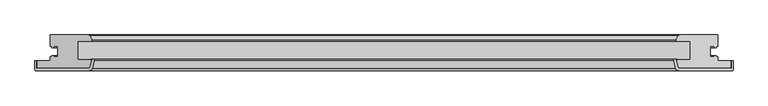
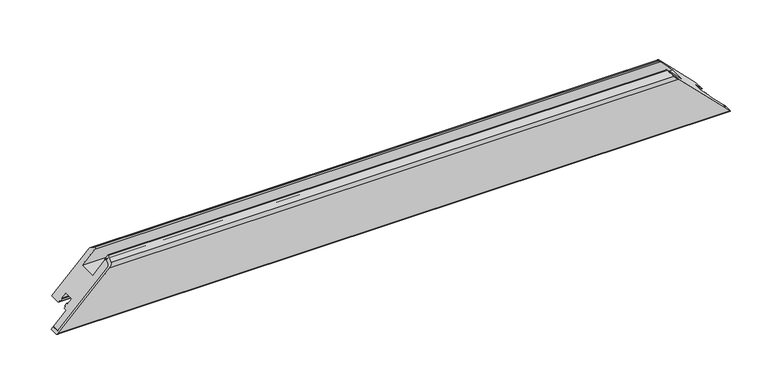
"""IFC4 building model written with IfcOpenShell, lengths in millimetres: proxy geometry, Weiku - Montante - Folha 02.2.01.018 : Weiku - Montante - Folha 02.2.01.018."""

from ifc_helpers import new_model, si_unit, frame, origin, place, context, project, spatial, polyline, ellipse_curve, source, transform, mapped, element, save
from ifc_brep_helpers import plane_surface, cylinder_surface, revolved_surface, advanced_brep


def generic_models_a916363e(model_context):
    return source(origin(), model_context, "Body", "AdvancedBrep", [
        advanced_brep(
        [(520.5, -50.0, 0.0), (-520.5, -50.0, 0.0), (-443.4997332, -50.0, 77.0002668), (443.4997332, -50.0, 77.0002668), (-440.6019557, -47.7764571, 79.8980443), (440.6019557, -47.7764571, 79.8980443), (-438.0170371, -38.1294095, 82.4829629), (438.0170371, -38.1294095, 82.4829629), (-438.5, -37.5, 82.0), (438.5, -37.5, 82.0), (-439.3560102, -37.5, 81.1439898), (439.3560102, -37.5, 81.1439898), (-439.3560102, -36.5, 81.1439898), (439.3560102, -36.5, 81.1439898), (-434.7425588, -36.5, 85.7574412), (434.7425588, -36.5, 85.7574412), (-433.7766329, -37.758819, 86.7233671), (433.7766329, -37.758819, 86.7233671), (-437.1354501, -50.2940952, 83.3645499), (437.1354501, -50.2940952, 83.3645499), (-441.9650792, -54.0, 78.5349208), (441.9650792, -54.0, 78.5349208), (-521.5, -54.0, -1.0), (521.5, -54.0, -1.0), (-523.5, -52.0, -3.0), (523.5, -52.0, -3.0), (-523.5, -38.5, -3.0), (523.5, -38.5, -3.0), (-520.5, -38.5, 0.0), (520.5, -38.5, 0.0)],
        [
            (0, 1),
            (1, 2),
            (2, 3),
            (3, 0),
            (2, 4, ellipse_curve(frame((-443.4997332, -47.0, 77.0002668), z_axis=(-0.7071067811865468, 0.0, 0.7071067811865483), x_axis=(0.7071067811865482, 0.0, 0.7071067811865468)), 4.2426407, 3.0)),
            (4, 5),
            (5, 3, ellipse_curve(frame((443.4997332, -47.0, 77.0002668), z_axis=(0.7071067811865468, 0.0, 0.7071067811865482), x_axis=(0.7071067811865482, 0.0, -0.7071067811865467)), 4.2426407, 3.0)),
            (4, 6),
            (6, 7),
            (7, 5),
            (6, 8, ellipse_curve(frame((-438.5, -38.0, 82.0), z_axis=(-0.7071067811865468, 0.0, 0.7071067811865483), x_axis=(0.7071067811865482, 0.0, 0.7071067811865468)), 0.7071068, 0.5)),
            (8, 9),
            (9, 7, ellipse_curve(frame((438.5, -38.0, 82.0), z_axis=(0.7071067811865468, 0.0, 0.7071067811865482), x_axis=(0.7071067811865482, 0.0, -0.7071067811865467)), 0.7071068, 0.5)),
            (8, 10),
            (10, 11),
            (11, 9),
            (10, 12, ellipse_curve(frame((-439.3560102, -37.0, 81.1439898), z_axis=(0.7071067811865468, 0.0, -0.7071067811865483), x_axis=(-0.7071067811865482, 0.0, -0.7071067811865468)), 0.7071068, 0.5)),
            (12, 13),
            (13, 11, ellipse_curve(frame((439.3560102, -37.0, 81.1439898), z_axis=(-0.7071067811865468, 0.0, -0.7071067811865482), x_axis=(-0.7071067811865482, 0.0, 0.7071067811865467)), 0.7071068, 0.5)),
            (12, 14),
            (14, 15),
            (15, 13),
            (14, 16, ellipse_curve(frame((-434.7425588, -37.5, 85.7574412), z_axis=(0.7071067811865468, 0.0, -0.7071067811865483), x_axis=(-0.7071067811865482, 0.0, -0.7071067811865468)), 1.4142136, 1.0)),
            (16, 17),
            (17, 15, ellipse_curve(frame((434.7425588, -37.5, 85.7574412), z_axis=(-0.7071067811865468, 0.0, -0.7071067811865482), x_axis=(-0.7071067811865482, 0.0, 0.7071067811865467)), 1.4142136, 1.0)),
            (16, 18),
            (18, 19),
            (19, 17),
            (18, 20, ellipse_curve(frame((-441.9650792, -49.0, 78.5349208), z_axis=(0.7071067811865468, 0.0, -0.7071067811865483), x_axis=(-0.7071067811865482, 0.0, -0.7071067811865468)), 7.0710678, 5.0)),
            (20, 21),
            (21, 19, ellipse_curve(frame((441.9650792, -49.0, 78.5349208), z_axis=(-0.7071067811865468, 0.0, -0.7071067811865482), x_axis=(-0.7071067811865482, 0.0, 0.7071067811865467)), 7.0710678, 5.0)),
            (20, 22),
            (22, 23),
            (23, 21),
            (22, 24, ellipse_curve(frame((-521.5, -52.0, -1.0), z_axis=(0.7071067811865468, 0.0, -0.7071067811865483), x_axis=(-0.7071067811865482, 0.0, -0.7071067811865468)), 2.8284271, 2.0)),
            (24, 25),
            (25, 23, ellipse_curve(frame((521.5, -52.0, -1.0), z_axis=(-0.7071067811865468, 0.0, -0.7071067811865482), x_axis=(-0.7071067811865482, 0.0, 0.7071067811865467)), 2.8284271, 2.0)),
            (24, 26),
            (26, 27),
            (27, 25),
            (26, 28),
            (28, 29),
            (29, 27),
            (28, 1),
            (0, 29),
        ],
        [
            plane_surface(frame((-540.5, -50.0, 0.0), z_axis=(0.0, 1.0, 0.0), x_axis=(1.0, 0.0, 0.0))),
            revolved_surface(polyline([(446.49973320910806, -50.0, 77.0002668), (-446.49973320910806, -50.0, 77.0002668)]), (-540.5, -47.0, 77.0002668), (1.0, 0.0, 0.0)),
            plane_surface(frame((-540.5, -47.7764571, 79.8980443), z_axis=(0.0, 0.2588190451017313, -0.9659258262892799), x_axis=(1.0, 0.0, 0.0))),
            revolved_surface(polyline([(439.00000001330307, -38.5, 82.0), (-439.0000000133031, -38.5, 82.0)]), (-540.5, -38.0, 82.0), (1.0, 0.0, 0.0)),
            plane_surface(frame((-540.5, -37.5, 82.0), z_axis=(0.0, -1.0, 0.0), x_axis=(1.0, 0.0, 0.0))),
            cylinder_surface(frame((-540.5, -37.0, 81.1439898), z_axis=(-1.0, 0.0, 0.0), x_axis=(0.0, -1.0, 0.0)), 0.5),
            plane_surface(frame((-540.5, -36.5, 81.1439898), z_axis=(0.0, 1.0, 0.0), x_axis=(1.0, 0.0, 0.0))),
            cylinder_surface(frame((-540.5, -37.5, 85.7574412), z_axis=(-1.0, 0.0, 0.0), x_axis=(0.0, -1.0, 0.0)), 1.0),
            plane_surface(frame((-540.5, -37.758819, 86.7233671), z_axis=(0.0, -0.25881904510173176, 0.9659258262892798), x_axis=(1.0, 0.0, 0.0))),
            cylinder_surface(frame((-540.5, -49.0, 78.5349208), z_axis=(-1.0, 0.0, 0.0), x_axis=(0.0, -1.0, 0.0)), 5.0),
            plane_surface(frame((-540.5, -54.0, 78.5349208), z_axis=(0.0, -1.0, 0.0), x_axis=(1.0, 0.0, 0.0))),
            cylinder_surface(frame((-540.5, -52.0, -1.0), z_axis=(-1.0, 0.0, 0.0), x_axis=(0.0, -1.0, 0.0)), 2.0),
            plane_surface(frame((-540.5, -52.0, -3.0), z_axis=(0.0, 0.0, -1.0), x_axis=(1.0, 0.0, 0.0))),
            plane_surface(frame((-540.5, -38.5, -3.0), z_axis=(0.0, 1.0, 0.0), x_axis=(1.0, 0.0, 0.0))),
            plane_surface(frame((-540.5, -38.5, 0.0), z_axis=(0.0, 0.0, 1.0), x_axis=(1.0, 0.0, 0.0))),
            plane_surface(frame((430.5, 0.0, 90.0), z_axis=(0.7071067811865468, 0.0, 0.7071067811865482), x_axis=(0.0, -1.0, 0.0))),
            plane_surface(frame((-548.7842712, 0.0, -28.2842712), z_axis=(-0.7071067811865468, 0.0, 0.7071067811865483), x_axis=(0.0, -1.0, 0.0))),
        ],
        [
            (0, [[1, 2, 3, 4]]),
            (1, [[-3, 5, 6, 7]]),
            (2, [[-6, 8, 9, 10]]),
            (3, [[-9, 11, 12, 13]]),
            (4, [[-12, 14, 15, 16]]),
            (5, [[-15, 17, 18, 19]]),
            (6, [[-18, 20, 21, 22]]),
            (7, [[-21, 23, 24, 25]]),
            (8, [[-24, 26, 27, 28]]),
            (9, [[-27, 29, 30, 31]]),
            (10, [[-30, 32, 33, 34]]),
            (11, [[-33, 35, 36, 37]]),
            (12, [[-36, 38, 39, 40]]),
            (13, [[-39, 41, 42, 43]]),
            (14, [[-42, 44, -1, 45]]),
            (15, [[-7, -10, -13, -16, -19, -22, -25, -28, -31, -34, -37, -40, -43, -45, -4]]),
            (16, [[-44, -41, -38, -35, -32, -29, -26, -23, -20, -17, -14, -11, -8, -5, -2]]),
        ],
    ),
        advanced_brep(
        [(520.5, -50.0, 0.0), (443.4997332, -50.0, 77.0002668), (-443.4997332, -50.0, 77.0002668), (-520.5, -50.0, 0.0), (-520.5, -38.5, 0.0), (520.5, -38.5, 0.0), (-442.4872264, 0.0, 78.0127736), (442.4872264, 0.0, 78.0127736), (500.5, 0.0, 20.0), (-500.5, 0.0, 20.0), (-440.6019557, -47.7764571, 79.8980443), (-438.0170371, -38.1294095, 82.4829629), (-438.5, -37.5, 82.0), (-459.0, -37.5, 61.5), (-459.0, -9.5, 61.5), (-439.2134285, -9.5, 81.2865715), (-438.0512796, -7.617411, 82.4487204), (-441.5932657, -0.5518546, 78.9067343), (-500.5, -16.9, 20.0), (-498.3, -16.9, 22.2), (-498.3, -18.9, 22.2), (-495.5, -18.9, 25.0), (-495.5, -16.9, 25.0), (-489.0, -16.9, 31.5), (-489.0, -33.1, 31.5), (-495.5, -33.1, 25.0), (-495.5, -31.1, 25.0), (-498.3, -31.1, 22.2), (-498.3, -33.1, 22.2), (-500.5, -33.1, 20.0), (-500.5, -38.5, 20.0), (500.5, -38.5, 20.0), (500.5, -33.1, 20.0), (498.3, -33.1, 22.2), (498.3, -31.1, 22.2), (495.5, -31.1, 25.0), (495.5, -33.1, 25.0), (489.0, -33.1, 31.5), (489.0, -16.9, 31.5), (495.5, -16.9, 25.0), (495.5, -18.9, 25.0), (498.3, -18.9, 22.2), (498.3, -16.9, 22.2), (500.5, -16.9, 20.0), (441.5932657, -0.5518546, 78.9067343), (438.0512796, -7.617411, 82.4487204), (439.2134285, -9.5, 81.2865715), (459.0, -9.5, 61.5), (459.0, -37.5, 61.5), (438.5, -37.5, 82.0), (438.0170371, -38.1294095, 82.4829629), (440.6019557, -47.7764571, 79.8980443)],
        [
            (0, 1),
            (1, 2),
            (2, 3),
            (3, 0),
            (3, 4),
            (4, 5),
            (5, 0),
            (6, 7),
            (7, 8),
            (8, 9),
            (9, 6),
            (2, 10, ellipse_curve(frame((-443.4997332, -47.0, 77.0002668), z_axis=(-0.7071067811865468, 0.0, 0.7071067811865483), x_axis=(-0.7071067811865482, 0.0, -0.7071067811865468)), 4.2426407, 3.0)),
            (10, 11),
            (11, 12, ellipse_curve(frame((-438.5, -38.0, 82.0), z_axis=(-0.7071067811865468, 0.0, 0.7071067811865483), x_axis=(-0.7071067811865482, 0.0, -0.7071067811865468)), 0.7071068, 0.5)),
            (12, 13),
            (13, 14),
            (14, 15),
            (15, 16, ellipse_curve(frame((-439.2134285, -8.2, 81.2865715), z_axis=(-0.7071067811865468, 0.0, 0.7071067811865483), x_axis=(-0.7071067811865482, 0.0, -0.7071067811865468)), 1.8384776, 1.3)),
            (16, 17),
            (17, 6, ellipse_curve(frame((-442.4872264, -1.0, 78.0127736), z_axis=(-0.7071067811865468, 0.0, 0.7071067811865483), x_axis=(-0.7071067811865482, 0.0, -0.7071067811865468)), 1.4142136, 1.0)),
            (9, 18),
            (18, 19),
            (19, 20),
            (20, 21),
            (21, 22),
            (22, 23),
            (23, 24),
            (24, 25),
            (25, 26),
            (26, 27),
            (27, 28),
            (28, 29),
            (29, 30),
            (30, 4),
            (5, 31),
            (31, 32),
            (32, 33),
            (33, 34),
            (34, 35),
            (35, 36),
            (36, 37),
            (37, 38),
            (38, 39),
            (39, 40),
            (40, 41),
            (41, 42),
            (42, 43),
            (43, 8),
            (7, 44, ellipse_curve(frame((442.4872264, -1.0, 78.0127736), z_axis=(0.7071067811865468, 0.0, 0.7071067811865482), x_axis=(-0.7071067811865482, 0.0, 0.7071067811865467)), 1.4142136, 1.0)),
            (44, 45),
            (45, 46, ellipse_curve(frame((439.2134285, -8.2, 81.2865715), z_axis=(0.7071067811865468, 0.0, 0.7071067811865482), x_axis=(-0.7071067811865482, 0.0, 0.7071067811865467)), 1.8384776, 1.3)),
            (46, 47),
            (47, 48),
            (48, 49),
            (49, 50, ellipse_curve(frame((438.5, -38.0, 82.0), z_axis=(0.7071067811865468, 0.0, 0.7071067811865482), x_axis=(-0.7071067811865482, 0.0, 0.7071067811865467)), 0.7071068, 0.5)),
            (50, 51),
            (51, 1, ellipse_curve(frame((443.4997332, -47.0, 77.0002668), z_axis=(0.7071067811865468, 0.0, 0.7071067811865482), x_axis=(-0.7071067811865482, 0.0, 0.7071067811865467)), 4.2426407, 3.0)),
            (17, 44),
            (16, 45),
            (15, 46),
            (14, 47),
            (13, 48),
            (12, 49),
            (11, 50),
            (10, 51),
            (30, 31),
            (29, 32),
            (28, 33),
            (27, 34),
            (26, 35),
            (25, 36),
            (24, 37),
            (23, 38),
            (22, 39),
            (21, 40),
            (20, 41),
            (19, 42),
            (18, 43),
        ],
        [
            plane_surface(frame((-520.5, -50.0, 77.0002668), z_axis=(0.0, -1.0, 0.0), x_axis=(1.0, 0.0, 0.0))),
            plane_surface(frame((-520.5, -50.0, 0.0), z_axis=(0.0, 0.0, -1.0), x_axis=(1.0, 0.0, 0.0))),
            plane_surface(frame((-520.5, 0.0, 20.0), z_axis=(0.0, 1.0, 0.0), x_axis=(1.0, 0.0, 0.0))),
            plane_surface(frame((-548.7842712, 0.0, -28.2842712), z_axis=(-0.7071067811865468, 0.0, 0.7071067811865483), x_axis=(0.0, -1.0, 0.0))),
            plane_surface(frame((430.5, 0.0, 90.0), z_axis=(0.7071067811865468, 0.0, 0.7071067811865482), x_axis=(0.0, -1.0, 0.0))),
            cylinder_surface(frame((-520.5, -1.0, 78.0127736), z_axis=(-1.0, 0.0, 0.0), x_axis=(0.0, -1.0, 0.0)), 1.0),
            plane_surface(frame((-520.5, -0.5518546, 78.9067343), z_axis=(0.0, 0.4481453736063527, 0.8939606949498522), x_axis=(1.0, 0.0, 0.0))),
            cylinder_surface(frame((-520.5, -8.2, 81.2865715), z_axis=(-1.0, 0.0, 0.0), x_axis=(0.0, -1.0, 0.0)), 1.3),
            plane_surface(frame((-520.5, -9.5, 81.2865715), z_axis=(0.0, -1.0, 0.0), x_axis=(1.0, 0.0, 0.0))),
            plane_surface(frame((-520.5, -9.5, 61.5), z_axis=(0.0, 0.0, 1.0), x_axis=(1.0, 0.0, 0.0))),
            plane_surface(frame((-520.5, -37.5, 61.5), z_axis=(0.0, 1.0, 0.0), x_axis=(1.0, 0.0, 0.0))),
            cylinder_surface(frame((-520.5, -38.0, 82.0), z_axis=(-1.0, 0.0, 0.0), x_axis=(0.0, -1.0, 0.0)), 0.5),
            plane_surface(frame((-520.5, -38.1294095, 82.4829629), z_axis=(0.0, -0.2588190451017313, 0.9659258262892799), x_axis=(1.0, 0.0, 0.0))),
            cylinder_surface(frame((-520.5, -47.0, 77.0002668), z_axis=(-1.0, 0.0, 0.0), x_axis=(0.0, -1.0, 0.0)), 3.0),
            plane_surface(frame((-520.5, -38.5, 0.0), z_axis=(0.0, 1.0, 0.0), x_axis=(1.0, 0.0, 0.0))),
            plane_surface(frame((-520.5, -38.5, 20.0), z_axis=(0.0, 0.0, -1.0), x_axis=(1.0, 0.0, 0.0))),
            plane_surface(frame((-520.5, -33.1, 20.0), z_axis=(0.0, 1.0, 0.0), x_axis=(1.0, 0.0, 0.0))),
            plane_surface(frame((-520.5, -33.1, 22.2), z_axis=(0.0, 0.0, -1.0), x_axis=(1.0, 0.0, 0.0))),
            plane_surface(frame((-520.5, -31.1, 22.2), z_axis=(0.0, 1.0, 0.0), x_axis=(1.0, 0.0, 0.0))),
            plane_surface(frame((-520.5, -31.1, 25.0), z_axis=(0.0, 0.0, 1.0), x_axis=(1.0, 0.0, 0.0))),
            plane_surface(frame((-520.5, -33.1, 25.0), z_axis=(0.0, 1.0, 0.0), x_axis=(1.0, 0.0, 0.0))),
            plane_surface(frame((-520.5, -33.1, 31.5), z_axis=(0.0, 0.0, -1.0), x_axis=(1.0, 0.0, 0.0))),
            plane_surface(frame((-520.5, -16.9, 31.5), z_axis=(0.0, -1.0, 0.0), x_axis=(1.0, 0.0, 0.0))),
            plane_surface(frame((-520.5, -16.9, 25.0), z_axis=(0.0, 0.0, 1.0), x_axis=(1.0, 0.0, 0.0))),
            plane_surface(frame((-520.5, -18.9, 25.0), z_axis=(0.0, -1.0, 0.0), x_axis=(1.0, 0.0, 0.0))),
            plane_surface(frame((-520.5, -18.9, 22.2), z_axis=(0.0, 0.0, -1.0), x_axis=(1.0, 0.0, 0.0))),
            plane_surface(frame((-520.5, -16.9, 22.2), z_axis=(0.0, -1.0, 0.0), x_axis=(1.0, 0.0, 0.0))),
            plane_surface(frame((-520.5, -16.9, 20.0), z_axis=(0.0, 0.0, -1.0), x_axis=(1.0, 0.0, 0.0))),
        ],
        [
            (0, [[1, 2, 3, 4]]),
            (1, [[5, 6, 7, -4]]),
            (2, [[8, 9, 10, 11]]),
            (3, [[12, 13, 14, 15, 16, 17, 18, 19, 20, -11, 21, 22, 23, 24, 25, 26, 27, 28, 29, 30, 31, 32, 33, 34, -5, -3]]),
            (4, [[-7, 35, 36, 37, 38, 39, 40, 41, 42, 43, 44, 45, 46, 47, 48, -9, 49, 50, 51, 52, 53, 54, 55, 56, 57, -1]]),
            (5, [[58, -49, -8, -20]]),
            (6, [[59, -50, -58, -19]]),
            (7, [[60, -51, -59, -18]]),
            (8, [[61, -52, -60, -17]]),
            (9, [[62, -53, -61, -16]]),
            (10, [[63, -54, -62, -15]]),
            (11, [[64, -55, -63, -14]]),
            (12, [[65, -56, -64, -13]]),
            (13, [[-2, -57, -65, -12]]),
            (14, [[-34, 66, -35, -6]]),
            (15, [[67, -36, -66, -33]]),
            (16, [[68, -37, -67, -32]]),
            (17, [[69, -38, -68, -31]]),
            (18, [[70, -39, -69, -30]]),
            (19, [[71, -40, -70, -29]]),
            (20, [[72, -41, -71, -28]]),
            (21, [[73, -42, -72, -27]]),
            (22, [[74, -43, -73, -26]]),
            (23, [[75, -44, -74, -25]]),
            (24, [[76, -45, -75, -24]]),
            (25, [[77, -46, -76, -23]]),
            (26, [[78, -47, -77, -22]]),
            (27, [[-10, -48, -78, -21]]),
        ],
    ),
    ])


if __name__ == "__main__":
    model = new_model("IFC4")
    model_context = context("Model", 3, world=origin())
    ifc_project = project(units=[si_unit("LENGTHUNIT", "METRE", prefix="MILLI")], contexts=[model_context])
    site = spatial("IfcSite", under=ifc_project)
    building = spatial("IfcBuilding", under=site)
    placement = place(None, origin())
    generic_models_shape = generic_models_a916363e(model_context)
    element("IfcBuildingElementProxy", 1, Name="Weiku - Montante - Folha 02.2.01.018 : Weiku - Montante - Folha 02.2.01.018", ObjectType="Weiku - Montante - Folha 02.2.01.018 : Weiku - Montante - Folha 02.2.01.018", at=placement, inside=building, context=model_context, shape_type="MappedRepresentation", body=[
        mapped(generic_models_shape, transform((0.0, 0.0, 0.0), x_axis=(1.0, 0.0, 0.0), y_axis=(0.0, 1.0, 0.0), z_axis=(0.0, 0.0, 1.0))),
    ])
    save(model, "model.ifc")
